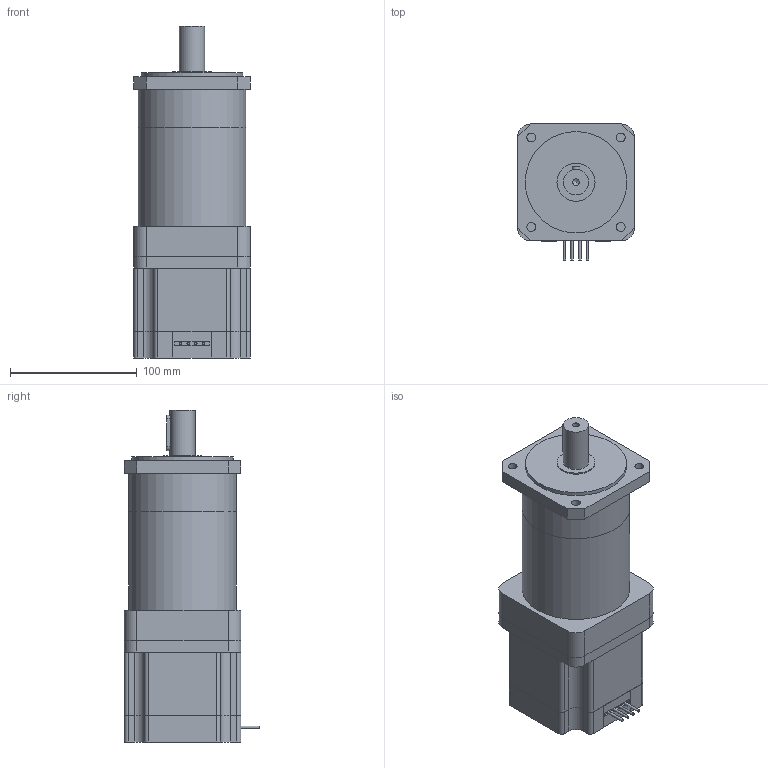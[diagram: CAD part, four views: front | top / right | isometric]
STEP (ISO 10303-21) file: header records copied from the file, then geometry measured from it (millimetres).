
FILE_DESCRIPTION(/* description */ (''),/* implementation_level */ '2;1');
FILE_NAME(/* name */ '86PG025-D44-0480.stp',/* time_stamp */ '2018-08-27T08:57:14+08:00',/* author */ (''),/* organization */ (''),/* preprocessor_version */ 'ST-DEVELOPER v11',/* originating_system */ 'SIEMENS UGS NX 6.0',/* authorisation */ '');
FILE_SCHEMA (('CONFIG_CONTROL_DESIGN'));
Length unit declared in the file: millimetre
Products named in the file (1): 86PG015-D44-0480
Bounding box: 92 x 107 x 262 mm (x, y, z)
Volume: 1528567 mm3; surface area: 164255 mm2
Topology: 6 solids, 6 shells, 121 faces, 301 edges, 202 vertices
Faces by surface type: plane 72, cylinder 48, cone 1
Full cylindrical faces by diameter (mm): 2 x4, 5.3 x1, 7 x4, 20 x1, 30 x1, 80 x1, 85 x2
Entity records: 3644 total; most frequent: CARTESIAN_POINT 659, DIRECTION 616, ORIENTED_EDGE 560, EDGE_CURVE 280, AXIS2_PLACEMENT_3D 216, VERTEX_POINT 197, LINE 184, VECTOR 184
